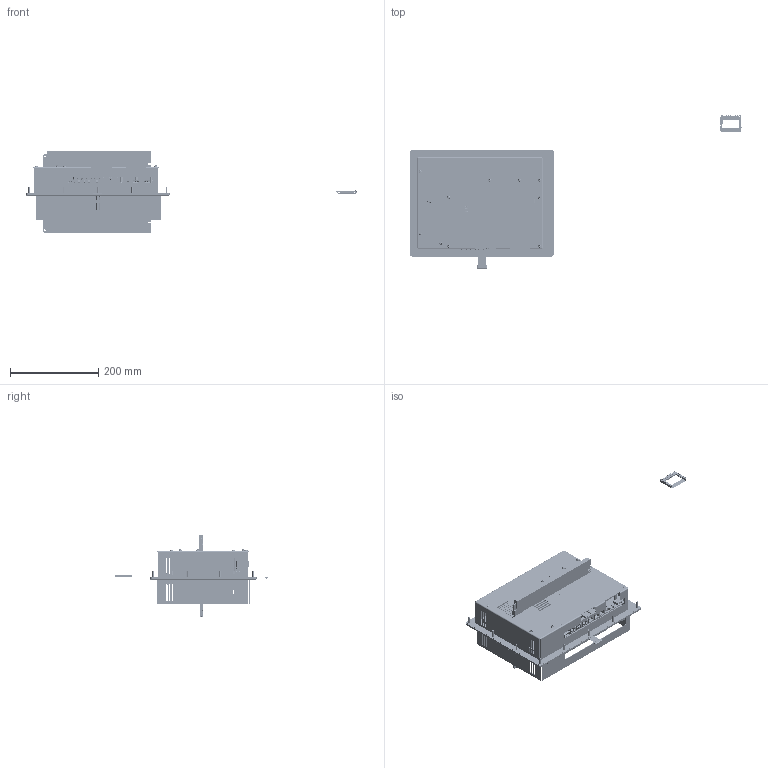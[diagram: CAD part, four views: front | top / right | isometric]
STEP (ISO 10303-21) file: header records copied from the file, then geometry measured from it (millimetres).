
FILE_DESCRIPTION( ( 'Unknown' ), '1' );
FILE_NAME( 'W:/Teams/Mech/SE data/Product_Lines/G3/G310-V2/G310C2.stp', 'Unknown', ( 'Unknown' ), ( 'Unknown' ), 'PSStep 13.0', 'Unknown', ' ' );
FILE_SCHEMA( ( 'AUTOMOTIVE_DESIGN { 1 0 10303 214 1 1 1 1 }' ) );
Length unit declared in the file: inch
Products named in the file (85): PN114331; PB04371_; WRPSB31D-straight; CV441600; SCOCMC10; Assem1; HWSMEZ24; HWSMEZ16; PB04283_; SCLIDA05; HWSMEZ08; HWSMEP24; HWWLE000; HWSMEP16; HWWLE000-oa1; CNBMS310; Meritec Cable connector end; Meritec Cable connector end-oa0; WRPSB31D 6 inch Meritec Cable conductors-straight; WRPSB31D_FERRITE; 53261-0890; hd02a0al; hd03a0al; s-632-1; HWSMEP08; FHL-256-8; bso-8632-22; bso-8632-32; FH-832-12; CNTP03X0; CNHFR040; CNMJ8803; CNZT0060; CNEP0500; CNBMR140; CNBMR150; CNZB0120; CNZB0100; BAIHLD00; CNMJ6602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
Bounding box: 752.12 x 347.1 x 185.1 mm (x, y, z)
Volume: 2550675.6 mm3; surface area: 2059089.9 mm2
Topology: 321 solids, 321 shells, 36811 faces, 103921 edges, 67560 vertices
Faces by surface type: plane 29149, cylinder 6042, torus 880, revolution 240, bspline 210, extrusion 148, cone 84, sphere 58
Full cylindrical faces by diameter (mm): 0.4 x150, 0.54 x18, 0.559 x30, 0.61 x42, 0.635 x366, 0.8 x21, 0.889 x150, 0.92 x36, 1.016 x45, 1.067 x15, 1.168 x21, 1.194 x18, 1.2 x30, 1.27 x3, 1.295 x6, 1.499 x9, 1.524 x12, 1.575 x12, 1.6 x6, 1.694 x8, 1.702 x6, 1.778 x45, 2.159 x12, 2.184 x5, 2.2 x6, 2.21 x6, 2.3 x18, 2.362 x9, 2.5 x6, 2.591 x6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
Entity records: 407329 total; most frequent: CARTESIAN_POINT 64914, ORIENTED_EDGE 56694, DIRECTION 52354, EDGE_CURVE 28347, VECTOR 23970, LINE 23932, VERTEX_POINT 18721, AXIS2_PLACEMENT_3D 14152
